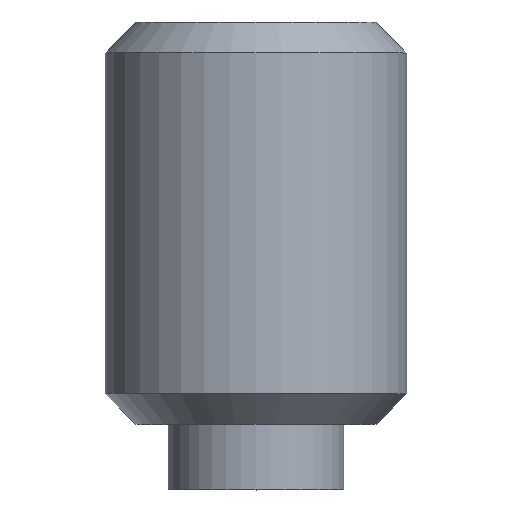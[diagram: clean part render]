
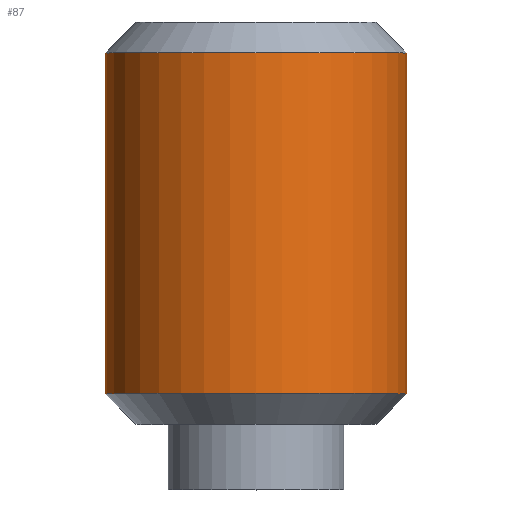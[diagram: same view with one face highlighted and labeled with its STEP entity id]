
A CAD part, top view. The second image highlights one B-rep face of the part: STEP entity #87.
In plain terms, the highlighted cylindrical face has radius 3 mm (diameter 6 mm), a full revolution.
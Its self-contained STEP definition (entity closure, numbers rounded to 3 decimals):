
#87 = ADVANCED_FACE( '', ( #118, #119 ), #120, .T. );
#118 = FACE_OUTER_BOUND( '', #152, .T. );
#119 = FACE_OUTER_BOUND( '', #153, .T. );
#120 = CYLINDRICAL_SURFACE( '', #154, 3. );
#152 = EDGE_LOOP( '', ( #238 ) );
#153 = EDGE_LOOP( '', ( #239 ) );
#154 = AXIS2_PLACEMENT_3D( '', #240, #241, #242 );
#238 = ORIENTED_EDGE( '', *, *, #270, .F. );
#239 = ORIENTED_EDGE( '', *, *, #271, .T. );
#240 = CARTESIAN_POINT( '', ( 0., 0., 0. ) );
#241 = DIRECTION( '', ( 0., 1., 0. ) );
#242 = DIRECTION( '', ( 0., 0., -1. ) );
#270 = EDGE_CURVE( '', #310, #310, #311, .T. );
#271 = EDGE_CURVE( '', #312, #312, #313, .T. );
#310 = VERTEX_POINT( '', #370 );
#311 = CIRCLE( '', #371, 3. );
#312 = VERTEX_POINT( '', #372 );
#313 = CIRCLE( '', #373, 3. );
#370 = CARTESIAN_POINT( '', ( 0., 1.913, -3. ) );
#371 = AXIS2_PLACEMENT_3D( '', #404, #405, #406 );
#372 = CARTESIAN_POINT( '', ( 0., 8.687, -3. ) );
#373 = AXIS2_PLACEMENT_3D( '', #407, #408, #409 );
#404 = CARTESIAN_POINT( '', ( 0., 1.913, 0. ) );
#405 = DIRECTION( '', ( 0., -1., 0. ) );
#406 = DIRECTION( '', ( 0., 0., -1. ) );
#407 = CARTESIAN_POINT( '', ( 0., 8.687, 0. ) );
#408 = DIRECTION( '', ( 0., -1., 0. ) );
#409 = DIRECTION( '', ( 0., 0., -1. ) );
